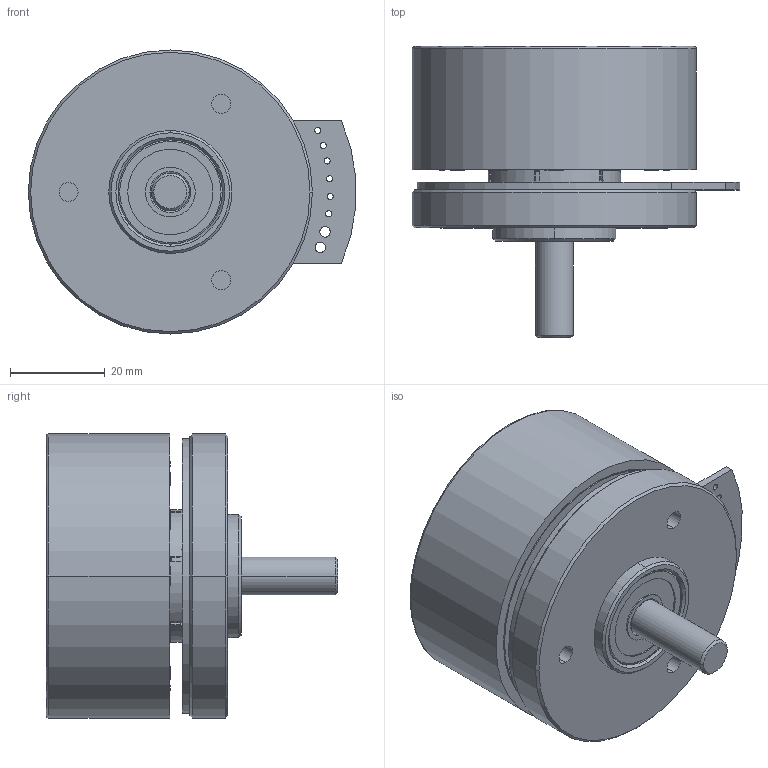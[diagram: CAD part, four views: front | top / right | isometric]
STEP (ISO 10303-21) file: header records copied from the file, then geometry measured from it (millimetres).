
FILE_DESCRIPTION((''),'2;1');
FILE_NAME('3_1_02_060_0835_SW0003','2024-10-15T08:57:26',('lizhang'),(''),'CREO PARAMETRIC BY PTC INC, 2017110','CREO PARAMETRIC BY PTC INC, 2017110','');
FILE_SCHEMA(('CONFIG_CONTROL_DESIGN'));
Products named in the file (1): 3_1_02_060_0835_SW0003
Bounding box: 69.14 x 61.5 x 60 mm (x, y, z)
Volume: 96360.6 mm3; surface area: 26900.8 mm2
Topology: 1 solids, 6 shells, 3237 faces, 9110 edges, 5938 vertices
Faces by surface type: plane 2965, cylinder 223, cone 27, torus 22
Entity records: 102832 total; most frequent: CARTESIAN_POINT 18650, ORIENTED_EDGE 18220, DIRECTION 16156, EDGE_CURVE 9110, VECTOR 8432, LINE 8432, VERTEX_POINT 5938, AXIS2_PLACEMENT_3D 3862
